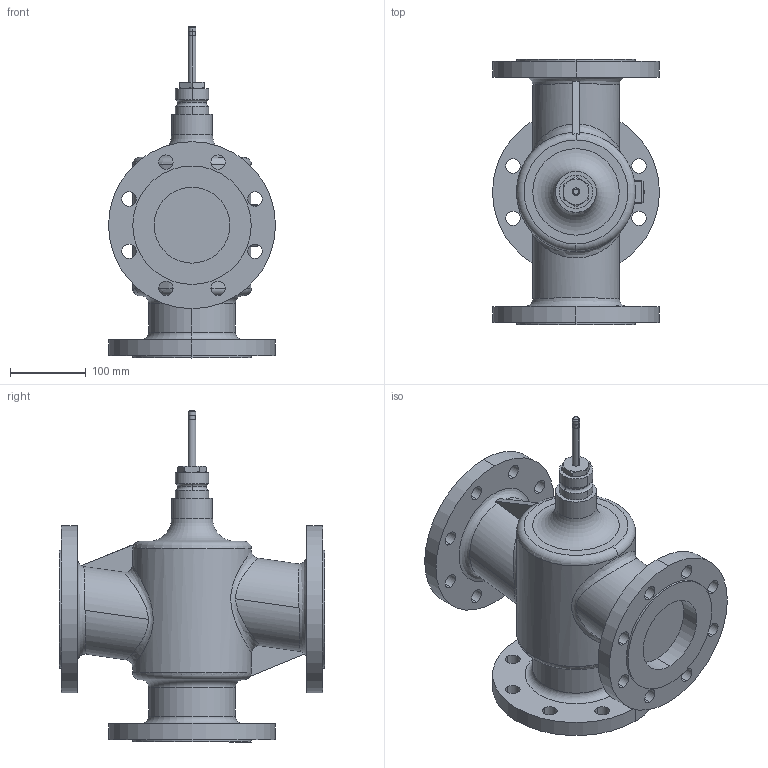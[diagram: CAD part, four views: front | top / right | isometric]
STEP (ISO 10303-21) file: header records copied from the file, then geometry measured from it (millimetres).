
FILE_DESCRIPTION(/* description */ (''),/* implementation_level */ '2;1');
FILE_NAME(/* name */ 'RAS_021825_00.stp',/* time_stamp */ '2012-11-07T08:16:20+01:00',/* author */ (''),/* organization */ (''),/* preprocessor_version */ 'ST-DEVELOPER v11',/* originating_system */ 'SIEMENS UGS NX 6.0',/* authorisation */ '');
FILE_SCHEMA (('AUTOMOTIVE_DESIGN { 1 0 10303 214 1 1 1 1 }'));
Length unit declared in the file: millimetre
Products named in the file (1): RontB30C3sza
Bounding box: 220 x 350 x 437.5 mm (x, y, z)
Volume: 7881445.5 mm3; surface area: 473447.2 mm2
Topology: 1 solids, 2 shells, 166 faces, 429 edges, 283 vertices
Faces by surface type: cylinder 97, plane 44, torus 13, cone 6, bspline 4, sphere 2
Full cylindrical faces by diameter (mm): 54 x1
Entity records: 7099 total; most frequent: CARTESIAN_POINT 2908, DIRECTION 902, ORIENTED_EDGE 836, EDGE_CURVE 418, AXIS2_PLACEMENT_3D 381, VERTEX_POINT 278, EDGE_LOOP 236, CIRCLE 216
